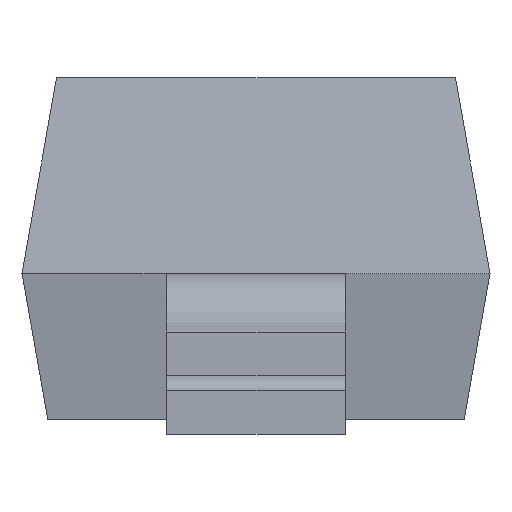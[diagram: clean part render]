
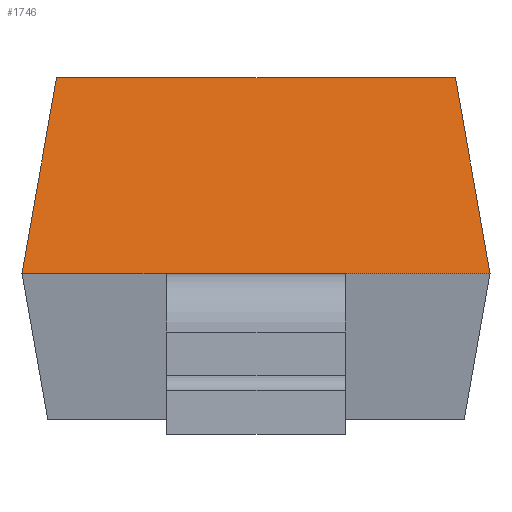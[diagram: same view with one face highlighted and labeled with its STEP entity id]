
A CAD part, front view. The second image highlights one B-rep face of the part: STEP entity #1746.
In plain terms, the highlighted planar face has unit normal (0, -0.985, 0.174).
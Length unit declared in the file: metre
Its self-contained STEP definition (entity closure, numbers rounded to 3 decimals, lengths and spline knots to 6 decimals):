
#239=LINE('',#3403,#427);
#240=LINE('',#3405,#428);
#241=LINE('',#3407,#429);
#242=LINE('',#3409,#430);
#427=VECTOR('',#2499,1.);
#428=VECTOR('',#2502,1.);
#429=VECTOR('',#2503,1.);
#430=VECTOR('',#2504,1.);
#843=ORIENTED_EDGE('',*,*,#1154,.T.);
#844=ORIENTED_EDGE('',*,*,#1153,.F.);
#845=ORIENTED_EDGE('',*,*,#1155,.F.);
#846=ORIENTED_EDGE('',*,*,#1156,.T.);
#1153=EDGE_CURVE('',#1321,#1318,#239,.T.);
#1154=EDGE_CURVE('',#1322,#1318,#240,.T.);
#1155=EDGE_CURVE('',#1323,#1321,#241,.T.);
#1156=EDGE_CURVE('',#1323,#1322,#242,.T.);
#1318=VERTEX_POINT('',#3397);
#1321=VERTEX_POINT('',#3402);
#1322=VERTEX_POINT('',#3406);
#1323=VERTEX_POINT('',#3408);
#1436=EDGE_LOOP('',(#843,#844,#845,#846));
#1538=FACE_BOUND('',#1436,.T.);
#1616=PLANE('',#2091);
#1746=ADVANCED_FACE('',(#1538),#1616,.T.);
#2091=AXIS2_PLACEMENT_3D('',#3404,#2500,#2501);
#2499=DIRECTION('',(0.171,-0.171,-0.97));
#2500=DIRECTION('',(0.,-0.985,0.174));
#2501=DIRECTION('',(0.,0.174,0.985));
#2502=DIRECTION('',(1.,0.,0.));
#2503=DIRECTION('',(1.,0.,0.));
#2504=DIRECTION('',(-0.171,-0.171,-0.97));
#3397=CARTESIAN_POINT('',(-0.133303,-0.016823,0.01005));
#3402=CARTESIAN_POINT('',(-0.133421,-0.016704,0.01072));
#3403=CARTESIAN_POINT('',(-0.133303,-0.016823,0.01005));
#3404=CARTESIAN_POINT('',(-0.133303,-0.016823,0.01005));
#3405=CARTESIAN_POINT('',(-0.133303,-0.016823,0.01005));
#3406=CARTESIAN_POINT('',(-0.134903,-0.016823,0.01005));
#3407=CARTESIAN_POINT('',(-0.134103,-0.016704,0.01072));
#3408=CARTESIAN_POINT('',(-0.134785,-0.016704,0.01072));
#3409=CARTESIAN_POINT('',(-0.134856,-0.016776,0.010316));
